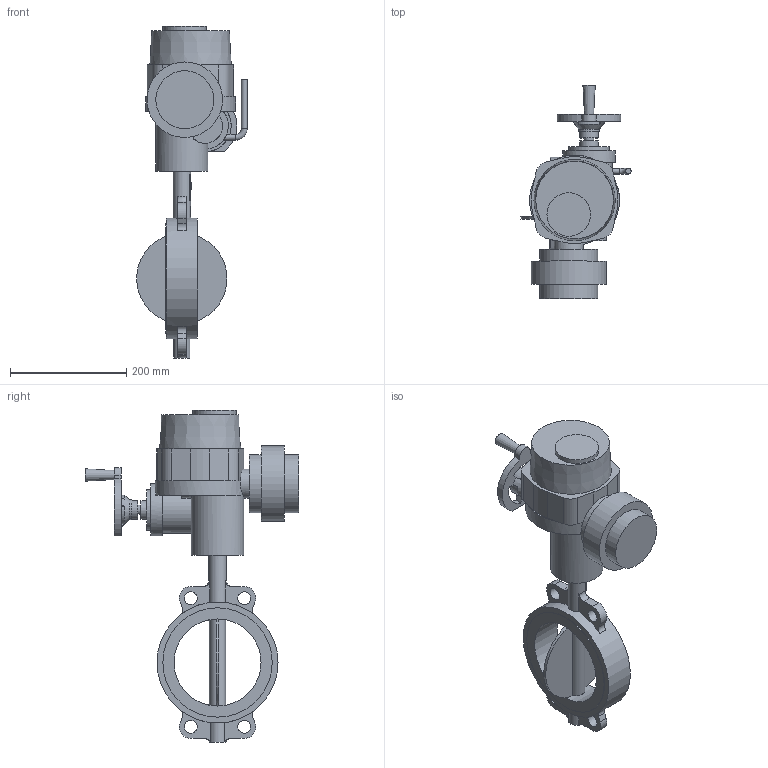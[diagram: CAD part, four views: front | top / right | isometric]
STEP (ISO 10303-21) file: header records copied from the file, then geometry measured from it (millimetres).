
FILE_DESCRIPTION(('STEP AP203'), '1');
FILE_NAME('青蜮铕 017W.Y_DN150_QT.A 010', '', ('UNSPECIFIED'), ('UNSPECIFIED'), 'ASCON STEP Converter 1.6', 'ASCON Math Kernel', '');
FILE_SCHEMA(('CONFIG_CONTROL_DESIGN'));
Length unit declared in the file: millimetre
Bounding box: 190.06 x 368 x 572 mm (x, y, z)
Volume: 5848459.8 mm3; surface area: 408661.3 mm2
Topology: 1 solids, 1 shells, 184 faces, 447 edges, 292 vertices
Faces by surface type: plane 102, cylinder 74, torus 5, cone 3
Full cylindrical faces by diameter (mm): 6.7 x4, 10 x6, 16 x1, 22 x4, 30 x1, 32 x2, 35 x1, 50 x1, 70 x1, 75 x1, 90 x2, 100 x2, 130 x1, 150 x1, 188.4 x2, 208.4 x1
Entity records: 8588 total; most frequent: CARTESIAN_POINT 2748, DIRECTION 931, ORIENTED_EDGE 824, EDGE_CURVE 412, AXIS2_PLACEMENT_3D 368, VERTEX_POINT 292, EDGE_LOOP 264, FACE_BOUND 199
